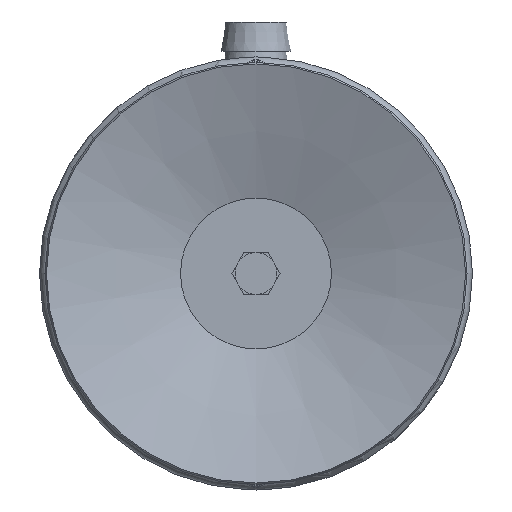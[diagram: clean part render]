
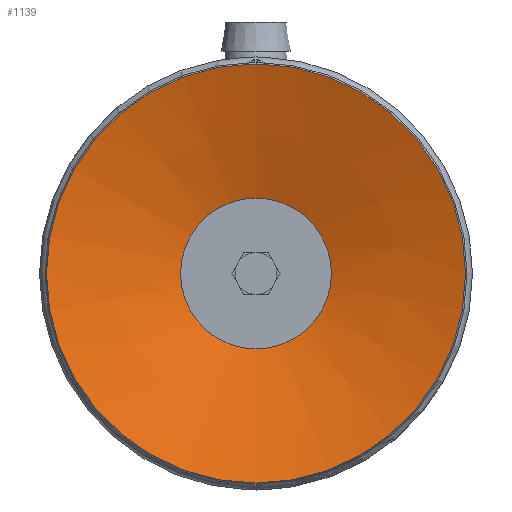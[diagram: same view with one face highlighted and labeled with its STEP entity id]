
A CAD part, front view. The second image highlights one B-rep face of the part: STEP entity #1139.
In plain terms, the highlighted conical face has half-angle 71.075 degrees and reference radius 15 mm.
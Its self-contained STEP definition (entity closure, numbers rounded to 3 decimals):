
#1139=ADVANCED_FACE('',(#2871,#2872),#2873,.F.);
#2871=FACE_BOUND('',#5296,.T.);
#2872=FACE_OUTER_BOUND('',#5297,.T.);
#2873=CONICAL_SURFACE('',#5298,15.0,1.24);
#5296=EDGE_LOOP('',(#8613));
#5297=EDGE_LOOP('',(#8614));
#5298=AXIS2_PLACEMENT_3D('',#8615,#8616,#8617);
#8613=ORIENTED_EDGE('',*,*,#15613,.T.);
#8614=ORIENTED_EDGE('',*,*,#15614,.T.);
#8615=CARTESIAN_POINT('',(0.,0.,0.0));
#8616=DIRECTION('',(0.0,0.,-1.0));
#8617=DIRECTION('',(0.0,1.0,0.));
#15613=EDGE_CURVE('',#19209,#19209,#19210,.T.);
#15614=EDGE_CURVE('',#19211,#19211,#19212,.T.);
#19209=VERTEX_POINT('',#25352);
#19210=CIRCLE('',#25353,5.4);
#19211=VERTEX_POINT('',#25354);
#19212=CIRCLE('',#25355,15.0);
#25352=CARTESIAN_POINT('',(-5.4,0.,3.291));
#25353=AXIS2_PLACEMENT_3D('',#30987,#30988,#30989);
#25354=CARTESIAN_POINT('',(0.,15.0,0.));
#25355=AXIS2_PLACEMENT_3D('',#30990,#30991,#30992);
#30987=CARTESIAN_POINT('',(0.,0.,3.291));
#30988=DIRECTION('',(0.,0.0,1.0));
#30989=DIRECTION('',(-1.0,0.0,0.));
#30990=CARTESIAN_POINT('',(0.,0.,0.0));
#30991=DIRECTION('',(0.0,0.,-1.0));
#30992=DIRECTION('',(0.0,1.0,0.));
